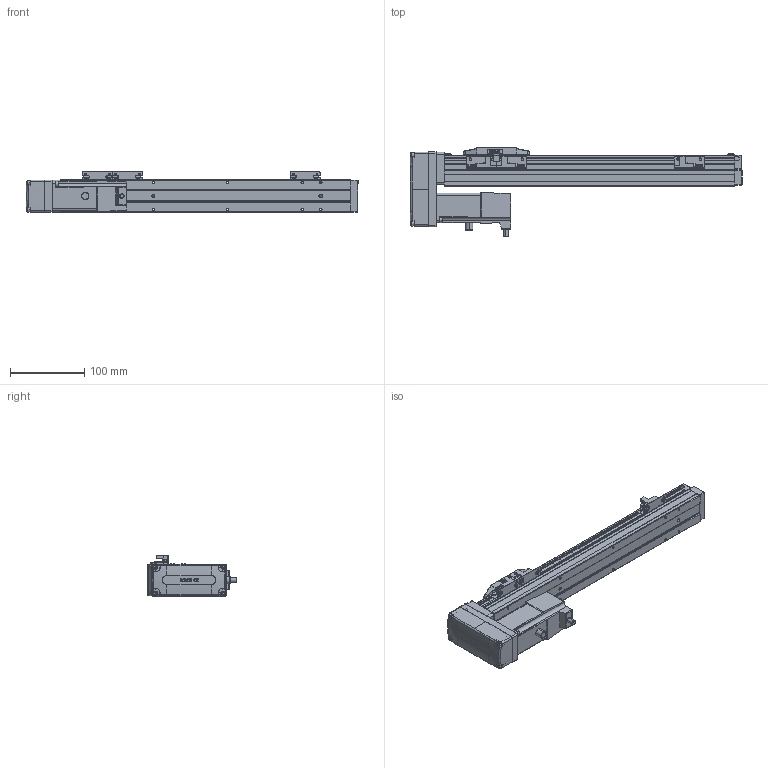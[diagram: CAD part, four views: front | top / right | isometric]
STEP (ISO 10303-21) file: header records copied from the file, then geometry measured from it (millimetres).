
FILE_DESCRIPTION (( 'STEP AP203' ), '1' );
FILE_NAME ('25.STEP', '2022-05-14T03:07:41', ( '' ), ( '' ), 'SwSTEP 2.0', 'SolidWorks 2016', '' );
FILE_SCHEMA (( 'CONFIG_CONTROL_DESIGN' ));
Length unit declared in the file: millimetre
Products named in the file (7): 25; T10; CTH4-BL-06-T10（1）-; CTH4-04-; CTH4-BC-01; EE_SX674_WR; FS-17-CTH8
Assembly tree (10 placements, depth 2):
  25
    CTH4-BC-01
    CTH4-04-
    FS-17-CTH8  x3
    EE_SX674_WR  x3
    T10
    CTH4-BL-06-T10（1）-
Bounding box: 446 x 120.2 x 55 mm (x, y, z)
Volume: 580927.9 mm3; surface area: 234922.4 mm2
Topology: 30 solids, 30 shells, 1963 faces, 5146 edges, 3283 vertices
Faces by surface type: plane 964, cylinder 618, bspline 181, cone 120, torus 72, sphere 8
Entity records: 61151 total; most frequent: CARTESIAN_POINT 18723, ORIENTED_EDGE 8796, DIRECTION 8337, EDGE_CURVE 4398, VERTEX_POINT 2847, AXIS2_PLACEMENT_3D 2827, VECTOR 2683, LINE 2683
